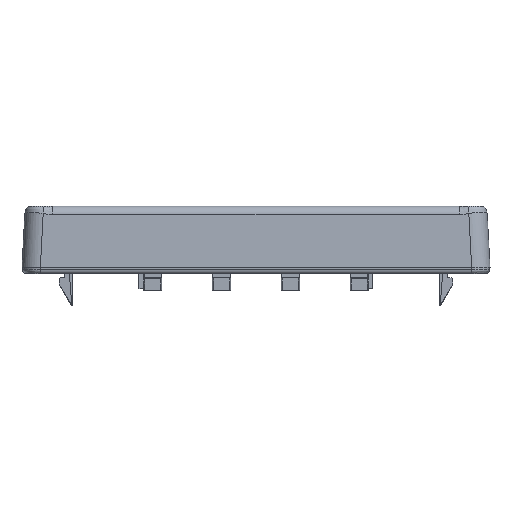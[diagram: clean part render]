
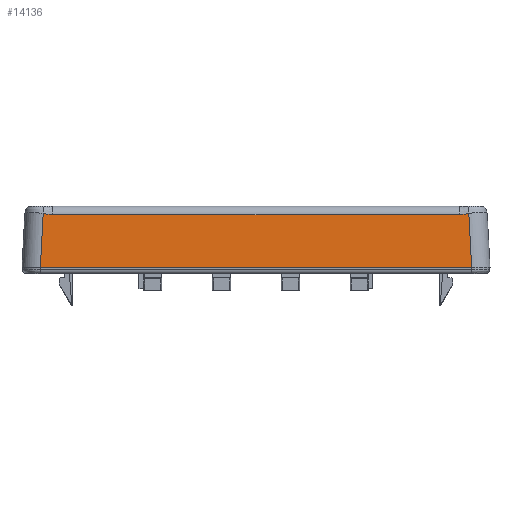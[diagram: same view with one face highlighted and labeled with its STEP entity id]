
A CAD part, front view. The second image highlights one B-rep face of the part: STEP entity #14136.
In plain terms, the highlighted planar face has unit normal (0, -0.999, 0.052).
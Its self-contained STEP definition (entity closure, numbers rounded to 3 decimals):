
#29 = CARTESIAN_POINT ( 'NONE',  ( 44.318, 9.855, 13.7 ) ) ;
#201 = ORIENTED_EDGE ( 'NONE', *, *, #17281, .T. ) ;
#313 = EDGE_LOOP ( 'NONE', ( #12264, #8172, #3415, #18734, #201, #9116 ) ) ;
#321 = CARTESIAN_POINT ( 'NONE',  ( 41.254, 9.826, 13.144 ) ) ;
#719 = CARTESIAN_POINT ( 'NONE',  ( -92.552, 9.829, 13.204 ) ) ;
#835 = CARTESIAN_POINT ( 'NONE',  ( -93.202, 9.836, 13.329 ) ) ;
#995 = EDGE_CURVE ( 'NONE', #16416, #7954, #4714, .T. ) ;
#1011 = CARTESIAN_POINT ( 'NONE',  ( 43.809, 9.85, 13.614 ) ) ;
#1021 = CARTESIAN_POINT ( 'NONE',  ( -94.062, 9.847, 13.546 ) ) ;
#1866 = AXIS2_PLACEMENT_3D ( 'NONE', #7089, #7208, #14538 ) ;
#2195 = CARTESIAN_POINT ( 'NONE',  ( -92.855, 9.832, 13.253 ) ) ;
#2505 = VERTEX_POINT ( 'NONE', #17327 ) ;
#2519 = CARTESIAN_POINT ( 'NONE',  ( 43.304, 9.844, 13.488 ) ) ;
#2586 = CARTESIAN_POINT ( 'NONE',  ( -93.632, 9.841, 13.436 ) ) ;
#2639 = CARTESIAN_POINT ( 'NONE',  ( 43.053, 9.84, 13.419 ) ) ;
#2648 = CARTESIAN_POINT ( 'NONE',  ( -94.076, 9.847, 13.55 ) ) ;
#2730 = B_SPLINE_CURVE_WITH_KNOTS ( 'NONE', 3,
 ( #16845, #9637, #8032, #10876, #3678, #18281, #6673, #9506, #719, #16970, #2195, #13806, #835, #5259, #14063, #15551, #6736, #7907, #18149, #3998, #5455, #2586, #11382, #6943, #12725, #8481, #14325, #11187, #12856, #1021, #15745, #11448, #5330, #2648, #11314, #9701, #14268 ),
 .UNSPECIFIED., .F., .F.,
 ( 4, 1, 1, 1, 1, 2, 2, 1, 1, 1, 1, 1, 2, 2, 1, 1, 1, 2, 2, 1, 1, 1, 1, 1, 2, 2, 4 ),
 ( 0., 0.125, 0.188, 0.219, 0.234, 0.242, 0.25, 0.375, 0.438, 0.469, 0.484, 0.492, 0.496, 0.5, 0.563, 0.594, 0.609, 0.617, 0.625, 0.688, 0.719, 0.734, 0.742, 0.746, 0.748, 0.75, 1. ),
 .UNSPECIFIED. ) ;
#3415 = ORIENTED_EDGE ( 'NONE', *, *, #995, .F. ) ;
#3678 = CARTESIAN_POINT ( 'NONE',  ( -92.44, 9.828, 13.188 ) ) ;
#3998 = CARTESIAN_POINT ( 'NONE',  ( -93.449, 9.839, 13.389 ) ) ;
#4580 = CARTESIAN_POINT ( 'NONE',  ( 51.238, 9.826, 13.144 ) ) ;
#4649 = DIRECTION ( 'NONE',  ( -0.052, -0.052, -0.997 ) ) ;
#4714 = LINE ( 'NONE', #4580, #13898 ) ;
#5141 = LINE ( 'NONE', #11113, #12494 ) ;
#5259 = CARTESIAN_POINT ( 'NONE',  ( -93.262, 9.836, 13.343 ) ) ;
#5330 = CARTESIAN_POINT ( 'NONE',  ( -94.076, 9.847, 13.55 ) ) ;
#5455 = CARTESIAN_POINT ( 'NONE',  ( -93.567, 9.84, 13.419 ) ) ;
#6168 = DIRECTION ( 'NONE',  ( 1., 0., 0. ) ) ;
#6277 = VERTEX_POINT ( 'NONE', #18530 ) ;
#6423 = CARTESIAN_POINT ( 'NONE',  ( -91.778, 9.826, 13.144 ) ) ;
#6673 = CARTESIAN_POINT ( 'NONE',  ( -92.525, 9.829, 13.2 ) ) ;
#6736 = CARTESIAN_POINT ( 'NONE',  ( -93.314, 9.837, 13.355 ) ) ;
#6943 = CARTESIAN_POINT ( 'NONE',  ( -93.681, 9.842, 13.448 ) ) ;
#7089 = CARTESIAN_POINT ( 'NONE',  ( 54.738, 8.927, -4.013 ) ) ;
#7208 = DIRECTION ( 'NONE',  ( 0., -0.999, 0.052 ) ) ;
#7771 = VERTEX_POINT ( 'NONE', #29 ) ;
#7907 = CARTESIAN_POINT ( 'NONE',  ( -93.32, 9.837, 13.357 ) ) ;
#7954 = VERTEX_POINT ( 'NONE', #321 ) ;
#8032 = CARTESIAN_POINT ( 'NONE',  ( -92.091, 9.826, 13.152 ) ) ;
#8172 = ORIENTED_EDGE ( 'NONE', *, *, #10213, .F. ) ;
#8472 = CARTESIAN_POINT ( 'NONE',  ( 42.547, 9.834, 13.296 ) ) ;
#8481 = CARTESIAN_POINT ( 'NONE',  ( -93.79, 9.843, 13.477 ) ) ;
#9116 = ORIENTED_EDGE ( 'NONE', *, *, #14544, .T. ) ;
#9172 = VECTOR ( 'NONE', #4649, 1000. ) ;
#9187 = LINE ( 'NONE', #16754, #16106 ) ;
#9217 = DIRECTION ( 'NONE',  ( -0.052, 0.052, 0.997 ) ) ;
#9243 = B_SPLINE_CURVE_WITH_KNOTS ( 'NONE', 3,
 ( #12656, #9837, #10023, #14188, #8472, #2639, #2519, #1011, #9827, #18718 ),
 .UNSPECIFIED., .F., .F.,
 ( 4, 2, 2, 2, 4 ),
 ( 0., 0.25, 0.5, 0.75, 1. ),
 .UNSPECIFIED. ) ;
#9506 = CARTESIAN_POINT ( 'NONE',  ( -92.542, 9.829, 13.202 ) ) ;
#9637 = CARTESIAN_POINT ( 'NONE',  ( -91.902, 9.826, 13.144 ) ) ;
#9701 = CARTESIAN_POINT ( 'NONE',  ( -94.634, 9.854, 13.675 ) ) ;
#9827 = CARTESIAN_POINT ( 'NONE',  ( 44.065, 9.853, 13.67 ) ) ;
#9837 = CARTESIAN_POINT ( 'NONE',  ( 41.518, 9.826, 13.144 ) ) ;
#10023 = CARTESIAN_POINT ( 'NONE',  ( 41.778, 9.827, 13.166 ) ) ;
#10111 = EDGE_CURVE ( 'NONE', #16416, #6277, #2730, .T. ) ;
#10213 = EDGE_CURVE ( 'NONE', #7954, #7771, #9243, .T. ) ;
#10439 = EDGE_CURVE ( 'NONE', #2505, #7771, #9187, .T. ) ;
#10564 = CARTESIAN_POINT ( 'NONE',  ( -94.842, 9.855, 13.7 ) ) ;
#10876 = CARTESIAN_POINT ( 'NONE',  ( -92.322, 9.827, 13.174 ) ) ;
#11113 = CARTESIAN_POINT ( 'NONE',  ( -25.262, 8.927, -4.013 ) ) ;
#11187 = CARTESIAN_POINT ( 'NONE',  ( -94.003, 9.846, 13.532 ) ) ;
#11314 = CARTESIAN_POINT ( 'NONE',  ( -94.379, 9.851, 13.626 ) ) ;
#11382 = CARTESIAN_POINT ( 'NONE',  ( -93.661, 9.842, 13.443 ) ) ;
#11448 = CARTESIAN_POINT ( 'NONE',  ( -94.074, 9.847, 13.549 ) ) ;
#12264 = ORIENTED_EDGE ( 'NONE', *, *, #10439, .T. ) ;
#12494 = VECTOR ( 'NONE', #13798, 1000. ) ;
#12656 = CARTESIAN_POINT ( 'NONE',  ( 41.254, 9.826, 13.144 ) ) ;
#12725 = CARTESIAN_POINT ( 'NONE',  ( -93.69, 9.842, 13.451 ) ) ;
#12856 = CARTESIAN_POINT ( 'NONE',  ( -94.044, 9.847, 13.542 ) ) ;
#13798 = DIRECTION ( 'NONE',  ( 1., 0., 0. ) ) ;
#13806 = CARTESIAN_POINT ( 'NONE',  ( -93.083, 9.834, 13.302 ) ) ;
#13898 = VECTOR ( 'NONE', #6168, 1000. ) ;
#14063 = CARTESIAN_POINT ( 'NONE',  ( -93.292, 9.837, 13.35 ) ) ;
#14136 = ADVANCED_FACE ( 'NONE', ( #16447 ), #17367, .T. ) ;
#14188 = CARTESIAN_POINT ( 'NONE',  ( 42.293, 9.831, 13.242 ) ) ;
#14268 = CARTESIAN_POINT ( 'NONE',  ( -94.842, 9.855, 13.7 ) ) ;
#14280 = CARTESIAN_POINT ( 'NONE',  ( -95.77, 8.927, -4.013 ) ) ;
#14325 = CARTESIAN_POINT ( 'NONE',  ( -93.905, 9.845, 13.506 ) ) ;
#14538 = DIRECTION ( 'NONE',  ( 0., -0.052, -0.999 ) ) ;
#14544 = EDGE_CURVE ( 'NONE', #17646, #2505, #5141, .T. ) ;
#15551 = CARTESIAN_POINT ( 'NONE',  ( -93.305, 9.837, 13.353 ) ) ;
#15745 = CARTESIAN_POINT ( 'NONE',  ( -94.07, 9.847, 13.549 ) ) ;
#16106 = VECTOR ( 'NONE', #9217, 1000. ) ;
#16416 = VERTEX_POINT ( 'NONE', #6423 ) ;
#16447 = FACE_OUTER_BOUND ( 'NONE', #313, .T. ) ;
#16754 = CARTESIAN_POINT ( 'NONE',  ( 45.246, 8.927, -4.013 ) ) ;
#16845 = CARTESIAN_POINT ( 'NONE',  ( -91.778, 9.826, 13.144 ) ) ;
#16970 = CARTESIAN_POINT ( 'NONE',  ( -92.673, 9.83, 13.222 ) ) ;
#17281 = EDGE_CURVE ( 'NONE', #6277, #17646, #18813, .T. ) ;
#17327 = CARTESIAN_POINT ( 'NONE',  ( 45.246, 8.927, -4.013 ) ) ;
#17367 = PLANE ( 'NONE',  #1866 ) ;
#17646 = VERTEX_POINT ( 'NONE', #14280 ) ;
#18149 = CARTESIAN_POINT ( 'NONE',  ( -93.368, 9.838, 13.368 ) ) ;
#18281 = CARTESIAN_POINT ( 'NONE',  ( -92.499, 9.829, 13.196 ) ) ;
#18530 = CARTESIAN_POINT ( 'NONE',  ( -94.842, 9.855, 13.7 ) ) ;
#18718 = CARTESIAN_POINT ( 'NONE',  ( 44.318, 9.855, 13.7 ) ) ;
#18734 = ORIENTED_EDGE ( 'NONE', *, *, #10111, .T. ) ;
#18813 = LINE ( 'NONE', #10564, #9172 ) ;
